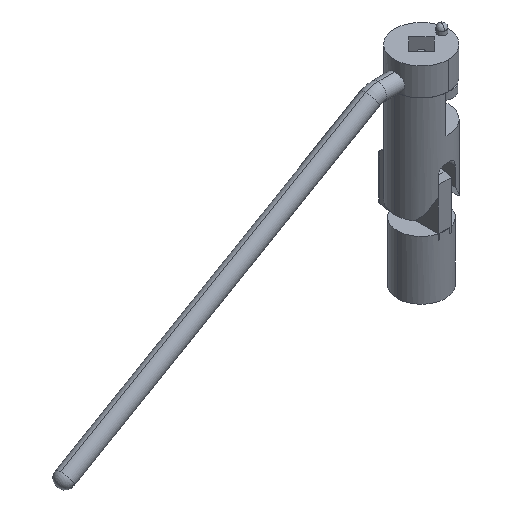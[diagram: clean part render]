
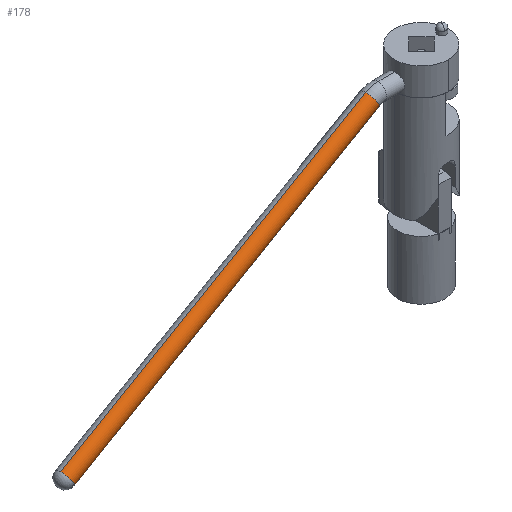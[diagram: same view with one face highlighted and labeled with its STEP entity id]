
A CAD part, isometric view. The second image highlights one B-rep face of the part: STEP entity #178.
In plain terms, the highlighted cylindrical face has radius 8 mm (diameter 16 mm), a partial arc.
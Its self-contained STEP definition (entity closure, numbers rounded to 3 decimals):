
#82 = VERTEX_POINT ( 'NONE', #1393 ) ;
#148 = ORIENTED_EDGE ( 'NONE', *, *, #387, .F. ) ;
#167 = ORIENTED_EDGE ( 'NONE', *, *, #200, .T. ) ;
#168 = EDGE_CURVE ( 'NONE', #364, #191, #1641, .T. ) ;
#171 = EDGE_LOOP ( 'NONE', ( #176, #180, #167, #386, #148 ) ) ;
#176 = ORIENTED_EDGE ( 'NONE', *, *, #209, .T. ) ;
#178 = ADVANCED_FACE ( 'NONE', ( #1677 ), #1688, .T. ) ;
#179 = EDGE_CURVE ( 'NONE', #196, #297, #1669, .T. ) ;
#180 = ORIENTED_EDGE ( 'NONE', *, *, #168, .T. ) ;
#191 = VERTEX_POINT ( 'NONE', #1561 ) ;
#196 = VERTEX_POINT ( 'NONE', #1573 ) ;
#200 = EDGE_CURVE ( 'NONE', #191, #196, #1609, .T. ) ;
#209 = EDGE_CURVE ( 'NONE', #82, #364, #1588, .T. ) ;
#297 = VERTEX_POINT ( 'NONE', #1875 ) ;
#364 = VERTEX_POINT ( 'NONE', #2098 ) ;
#386 = ORIENTED_EDGE ( 'NONE', *, *, #179, .T. ) ;
#387 = EDGE_CURVE ( 'NONE', #82, #297, #2078, .T. ) ;
#1393 = CARTESIAN_POINT ( 'NONE',  ( 0., 44.3, 26.938 ) ) ;
#1561 = CARTESIAN_POINT ( 'NONE',  ( 0., 338.072, 178.072 ) ) ;
#1573 = CARTESIAN_POINT ( 'NONE',  ( 8., 334.072, 185. ) ) ;
#1588 = CIRCLE ( 'NONE', #1628, 8. ) ;
#1601 = DIRECTION ( 'NONE',  ( 0., -0.5, 0.866 ) ) ;
#1602 = DIRECTION ( 'NONE',  ( 0., -0.866, -0.5 ) ) ;
#1603 = CARTESIAN_POINT ( 'NONE',  ( 0., 334.072, 185. ) ) ;
#1605 = AXIS2_PLACEMENT_3D ( 'NONE', #1603, #1602, #1601 ) ;
#1609 = CIRCLE ( 'NONE', #1605, 8. ) ;
#1622 = DIRECTION ( 'NONE',  ( 0., -0.5, 0.866 ) ) ;
#1623 = DIRECTION ( 'NONE',  ( 0., 0.866, 0.5 ) ) ;
#1624 = CARTESIAN_POINT ( 'NONE',  ( 0., 48.3, 20.01 ) ) ;
#1628 = AXIS2_PLACEMENT_3D ( 'NONE', #1624, #1623, #1622 ) ;
#1632 = DIRECTION ( 'NONE',  ( 0., 0.866, 0.5 ) ) ;
#1633 = VECTOR ( 'NONE', #1632, 1000. ) ;
#1640 = CARTESIAN_POINT ( 'NONE',  ( 0., 52.3, 13.081 ) ) ;
#1641 = LINE ( 'NONE', #1640, #1633 ) ;
#1665 = DIRECTION ( 'NONE',  ( 0., -0.5, 0.866 ) ) ;
#1666 = AXIS2_PLACEMENT_3D ( 'NONE', #1693, #1671, #1665 ) ;
#1668 = DIRECTION ( 'NONE',  ( 0., -0.5, 0.866 ) ) ;
#1669 = CIRCLE ( 'NONE', #1666, 8. ) ;
#1671 = DIRECTION ( 'NONE',  ( 0., -0.866, -0.5 ) ) ;
#1677 = FACE_OUTER_BOUND ( 'NONE', #171, .T. ) ;
#1683 = AXIS2_PLACEMENT_3D ( 'NONE', #1687, #1694, #1668 ) ;
#1687 = CARTESIAN_POINT ( 'NONE',  ( 0., 48.3, 20.01 ) ) ;
#1688 = CYLINDRICAL_SURFACE ( 'NONE', #1683, 8. ) ;
#1693 = CARTESIAN_POINT ( 'NONE',  ( 0., 334.072, 185. ) ) ;
#1694 = DIRECTION ( 'NONE',  ( 0., 0.866, 0.5 ) ) ;
#1875 = CARTESIAN_POINT ( 'NONE',  ( 0., 330.072, 191.928 ) ) ;
#2075 = DIRECTION ( 'NONE',  ( 0., 0.866, 0.5 ) ) ;
#2076 = VECTOR ( 'NONE', #2075, 1000. ) ;
#2077 = CARTESIAN_POINT ( 'NONE',  ( 0., 44.3, 26.938 ) ) ;
#2078 = LINE ( 'NONE', #2077, #2076 ) ;
#2098 = CARTESIAN_POINT ( 'NONE',  ( 0., 52.3, 13.081 ) ) ;
